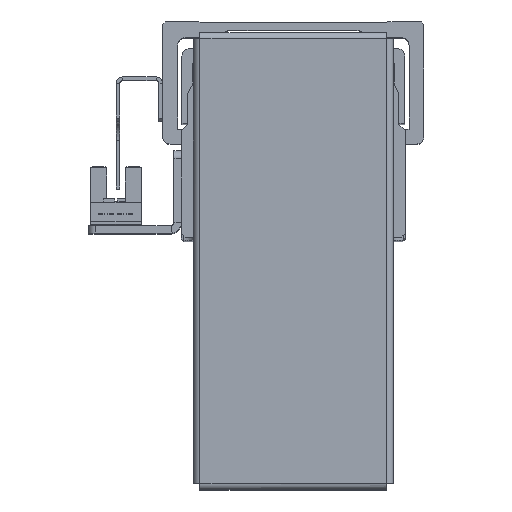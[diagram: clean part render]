
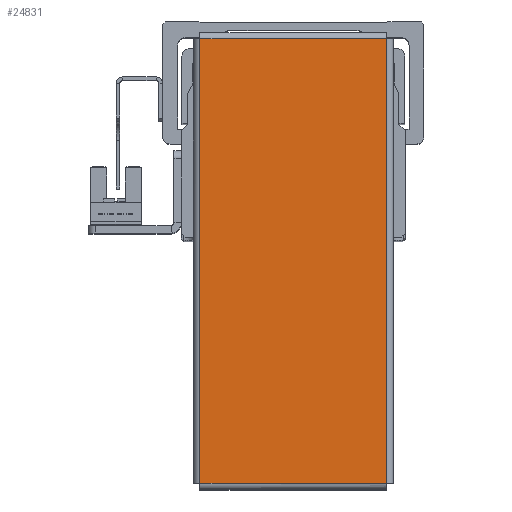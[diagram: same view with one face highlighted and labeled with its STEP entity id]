
A CAD part, top view. The second image highlights one B-rep face of the part: STEP entity #24831.
In plain terms, the highlighted planar face has unit normal (0, 0, 1) as drawn and (0, 0, -1) by its records, which use the part's own axes.
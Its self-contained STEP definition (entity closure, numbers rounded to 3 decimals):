
#1562 = VECTOR ( 'NONE', #3940, 1000. ) ;
#1607 = LINE ( 'NONE', #3917, #1562 ) ;
#2565 = LINE ( 'NONE', #3800, #2574 ) ;
#2572 = LINE ( 'NONE', #3768, #2581 ) ;
#2574 = VECTOR ( 'NONE', #3825, 1000. ) ;
#2581 = VECTOR ( 'NONE', #3773, 1000. ) ;
#3768 = CARTESIAN_POINT ( 'NONE',  ( 59.543, -25.013, -1. ) ) ;
#3773 = DIRECTION ( 'NONE',  ( -1., 0., 0. ) ) ;
#3800 = CARTESIAN_POINT ( 'NONE',  ( 59.513, 25.043, -1. ) ) ;
#3825 = DIRECTION ( 'NONE',  ( 0., -1., 0. ) ) ;
#3917 = CARTESIAN_POINT ( 'NONE',  ( -59.543, 25.013, -1. ) ) ;
#3940 = DIRECTION ( 'NONE',  ( 1., 0., 0. ) ) ;
#4133 = CARTESIAN_POINT ( 'NONE',  ( -59.513, -25.043, -1. ) ) ;
#4145 = DIRECTION ( 'NONE',  ( 0., 1., 0. ) ) ;
#5165 = ORIENTED_EDGE ( 'NONE', *, *, #21811, .T. ) ;
#5175 = ORIENTED_EDGE ( 'NONE', *, *, #21928, .T. ) ;
#5219 = ORIENTED_EDGE ( 'NONE', *, *, #21859, .T. ) ;
#5223 = ORIENTED_EDGE ( 'NONE', *, *, #21821, .T. ) ;
#7505 = AXIS2_PLACEMENT_3D ( 'NONE', #14238, #14212, #14215 ) ;
#9013 = VERTEX_POINT ( 'NONE', #28982 ) ;
#9018 = VERTEX_POINT ( 'NONE', #28974 ) ;
#9026 = VERTEX_POINT ( 'NONE', #29019 ) ;
#9037 = VERTEX_POINT ( 'NONE', #28997 ) ;
#11154 = LINE ( 'NONE', #4133, #11197 ) ;
#11197 = VECTOR ( 'NONE', #4145, 1000. ) ;
#12075 = FACE_OUTER_BOUND ( 'NONE', #22826, .T. ) ;
#14211 = PLANE ( 'NONE',  #7505 ) ;
#14212 = DIRECTION ( 'NONE',  ( 0., 0., 1. ) ) ;
#14215 = DIRECTION ( 'NONE',  ( 1., 0., 0. ) ) ;
#14238 = CARTESIAN_POINT ( 'NONE',  ( 0., 0., -1. ) ) ;
#21811 = EDGE_CURVE ( 'NONE', #9013, #9037, #2572, .T. ) ;
#21821 = EDGE_CURVE ( 'NONE', #9018, #9013, #2565, .T. ) ;
#21859 = EDGE_CURVE ( 'NONE', #9026, #9018, #1607, .T. ) ;
#21928 = EDGE_CURVE ( 'NONE', #9037, #9026, #11154, .T. ) ;
#22826 = EDGE_LOOP ( 'NONE', ( #5223, #5165, #5175, #5219 ) ) ;
#24831 = ADVANCED_FACE ( 'NONE', ( #12075 ), #14211, .F. ) ;
#28974 = CARTESIAN_POINT ( 'NONE',  ( 59.513, 25.013, -1. ) ) ;
#28982 = CARTESIAN_POINT ( 'NONE',  ( 59.513, -25.013, -1. ) ) ;
#28997 = CARTESIAN_POINT ( 'NONE',  ( -59.513, -25.013, -1. ) ) ;
#29019 = CARTESIAN_POINT ( 'NONE',  ( -59.513, 25.013, -1. ) ) ;
